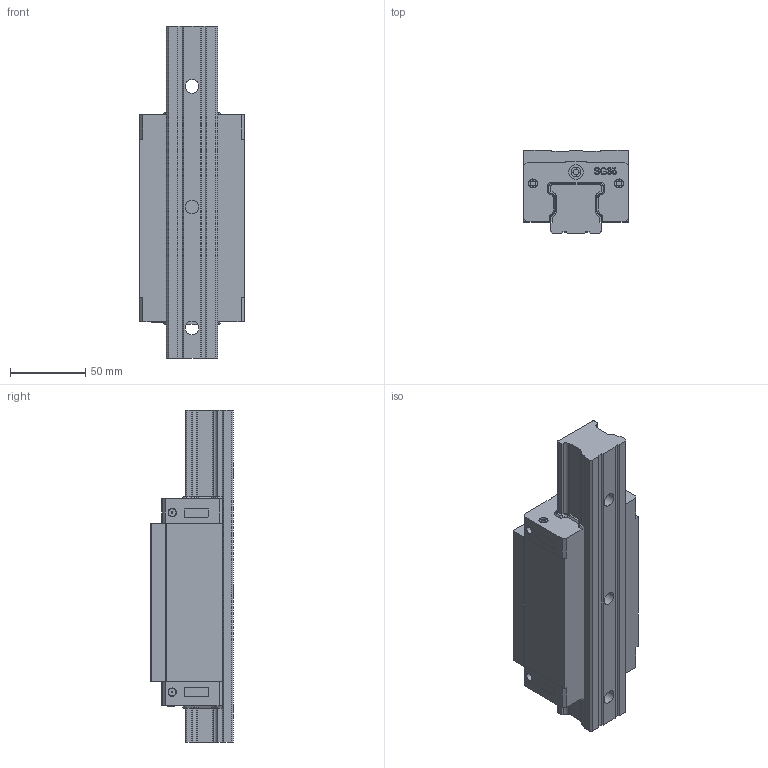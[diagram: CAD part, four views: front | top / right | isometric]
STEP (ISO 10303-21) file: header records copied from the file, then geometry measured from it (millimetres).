
FILE_DESCRIPTION(/* description */ (''),/* implementation_level */ '2;1');
FILE_NAME(/* name */ 'SGH35BL.stp',/* time_stamp */ '2021-05-27T16:20:21+08:00',/* author */ (''),/* organization */ (''),/* preprocessor_version */ 'ST-DEVELOPER v15',/* originating_system */ 'SIEMENS PLM Software NX 8.5',/* authorisation */ '');
FILE_SCHEMA (('CONFIG_CONTROL_DESIGN'));
Length unit declared in the file: millimetre
Products named in the file (1): SGH35BL
Bounding box: 70 x 55 x 220 mm (x, y, z)
Volume: 531763.1 mm3; surface area: 83829.4 mm2
Topology: 2 solids, 2 shells, 448 faces, 1202 edges, 799 vertices
Faces by surface type: plane 199, extrusion 122, cylinder 88, cone 39
Full cylindrical faces by diameter (mm): 1 x4, 3.5 x4, 4 x2, 5 x4, 6 x4, 6.5 x2, 6.8 x4, 9 x3, 9.5 x2, 14 x3
Entity records: 16614 total; most frequent: CARTESIAN_POINT 5813, ORIENTED_EDGE 2310, DIRECTION 1886, EDGE_CURVE 1155, VERTEX_POINT 795, VECTOR 746, LINE 624, AXIS2_PLACEMENT_3D 570
